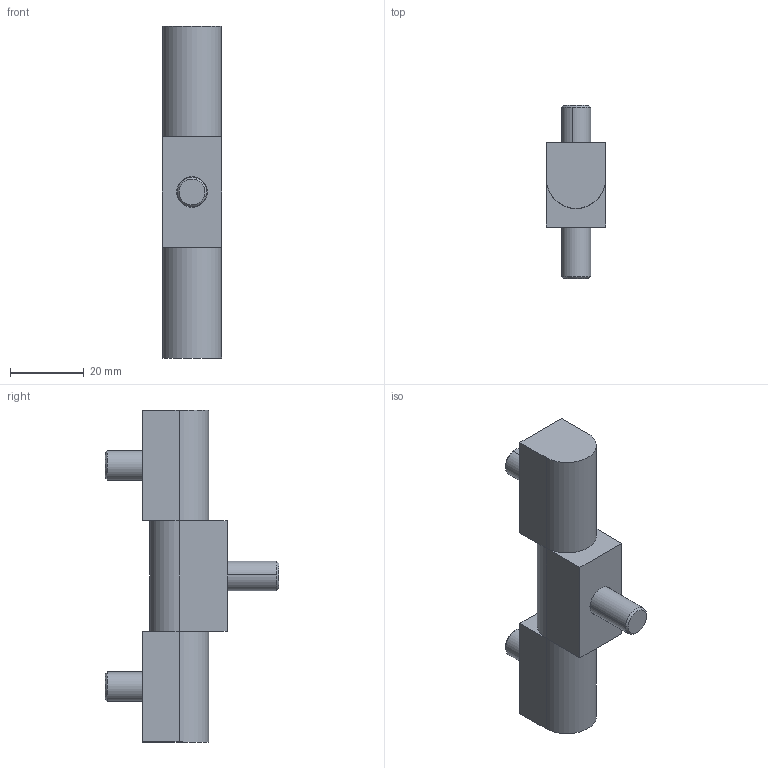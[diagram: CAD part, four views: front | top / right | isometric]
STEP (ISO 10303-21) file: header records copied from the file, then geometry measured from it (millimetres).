
FILE_DESCRIPTION (( 'STEP AP214' ), '1' );
FILE_NAME ('3A.ST18.001.STEP', '2010-02-09T14:39:50', ( '£ukaszC' ), ( '' ), 'SwSTEP 2.0', 'SolidWorks 2008', '' );
FILE_SCHEMA (( 'AUTOMOTIVE_DESIGN' ));
Length unit declared in the file: millimetre
Products named in the file (6): 3A.ST18.001.03_Domyœlna; 3A.ST18.001.05_Domyœlna; 3A.ST18.001.01_gwint; 3A.ST18.001.04_Domyœlna; 3A.ST18.001; 3A.ST18.001.02_pod gwint
Assembly tree (7 placements, depth 2):
  3A.ST18.001
    3A.ST18.001.03_Domyœlna
    3A.ST18.001.04_Domyœlna  x2
    3A.ST18.001.02_pod gwint  x2
    3A.ST18.001.05_Domyœlna
    3A.ST18.001.01_gwint
Bounding box: 16 x 47 x 90 mm (x, y, z)
Volume: 26420.2 mm3; surface area: 12665 mm2
Topology: 7 solids, 7 shells, 68 faces, 140 edges, 84 vertices
Faces by surface type: cylinder 23, plane 23, cone 22
Entity records: 1601 total; most frequent: CARTESIAN_POINT 365, DIRECTION 250, ORIENTED_EDGE 192, AXIS2_PLACEMENT_3D 100, EDGE_CURVE 96, VERTEX_POINT 59, EDGE_LOOP 55, VECTOR 50
